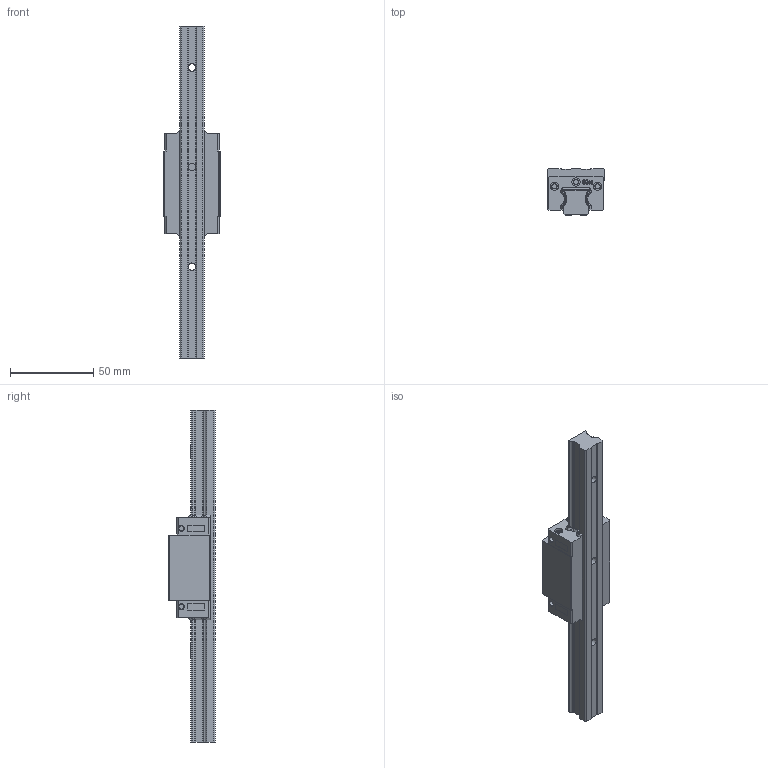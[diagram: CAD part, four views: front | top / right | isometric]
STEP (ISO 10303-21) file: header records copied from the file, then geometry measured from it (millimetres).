
FILE_DESCRIPTION(/* description */ (''),/* implementation_level */ '2;1');
FILE_NAME(/* name */ 'SGH15B.stp',/* time_stamp */ '2021-05-27T16:15:02+08:00',/* author */ (''),/* organization */ (''),/* preprocessor_version */ 'ST-DEVELOPER v15',/* originating_system */ 'SIEMENS PLM Software NX 8.5',/* authorisation */ '');
FILE_SCHEMA (('CONFIG_CONTROL_DESIGN'));
Length unit declared in the file: millimetre
Products named in the file (1): SGH15B
Bounding box: 34 x 28 x 200 mm (x, y, z)
Volume: 74149.1 mm3; surface area: 24820.2 mm2
Topology: 2 solids, 2 shells, 430 faces, 1170 edges, 783 vertices
Faces by surface type: plane 203, cylinder 94, extrusion 94, cone 39
Full cylindrical faces by diameter (mm): 3 x4, 3.1 x4, 3.2 x6, 3.3 x4, 4.5 x3, 5 x6, 7.5 x3
Entity records: 14661 total; most frequent: CARTESIAN_POINT 4277, ORIENTED_EDGE 2214, DIRECTION 1853, EDGE_CURVE 1107, VERTEX_POINT 761, VECTOR 679, AXIS2_PLACEMENT_3D 587, LINE 585
